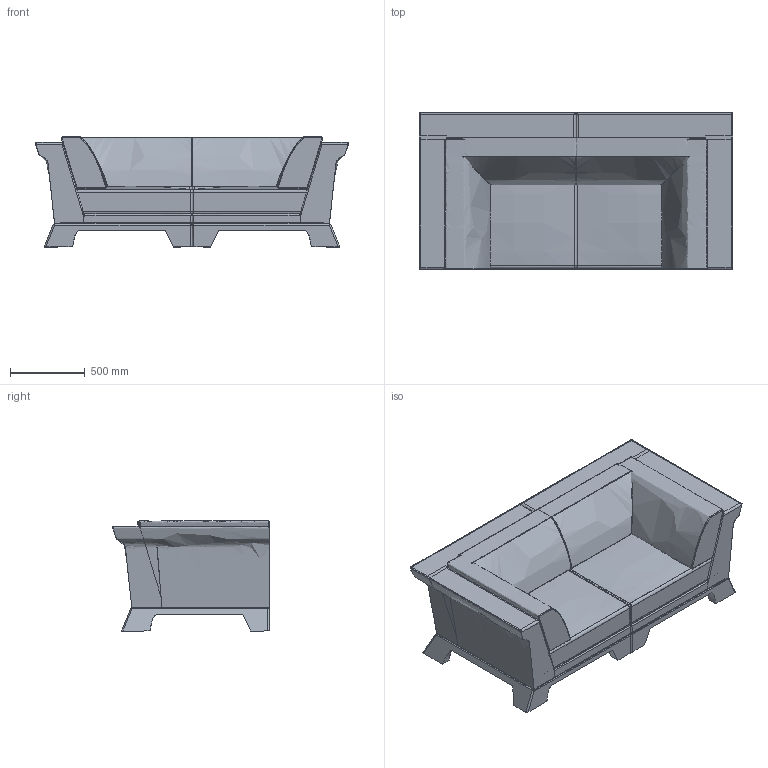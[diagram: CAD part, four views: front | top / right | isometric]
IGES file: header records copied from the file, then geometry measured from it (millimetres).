
Global section: file name: C:\Users\market02\Desktop\RYAN\PATT\FPATTCOM004_COMPOSITION 4_PATT\exportation\FPATTCOM002_COMPOSITION 4_PATT.igs; native system: Rhinoceros ( Dec 14 2021 ); preprocessor: Trout Lake IGES 012 Dec 14 2021; date: 220131.095131; units: millimetre
Bounding box: 2099.96 x 1061.19 x 738.17 mm (x, y, z)
Surface area: 19854805.2 mm2 (no closed solid volume)
Topology: 0 solids, 0 shells, 341 faces, 4686 edges, 4678 vertices
Faces by surface type: bspline 341
